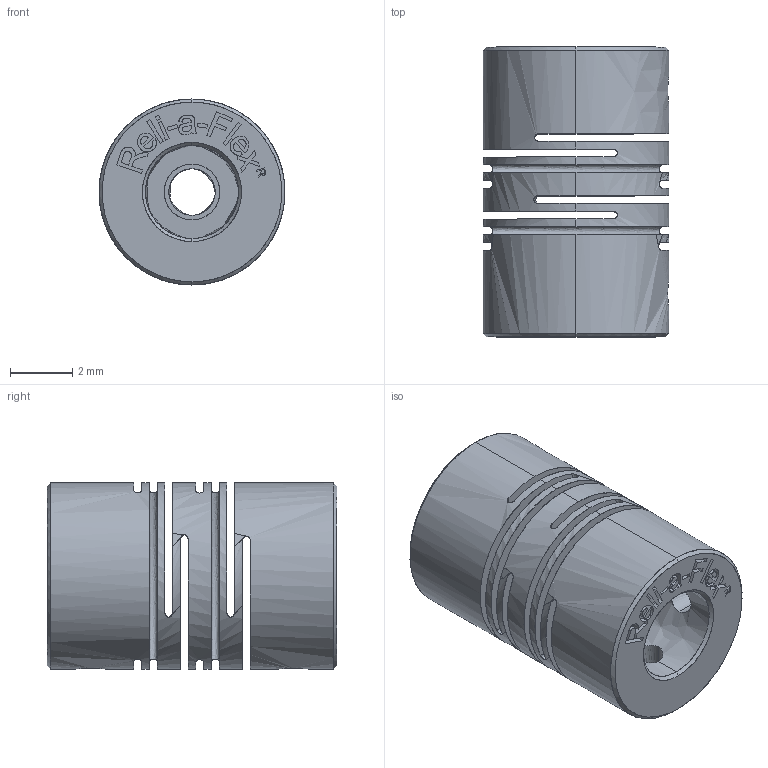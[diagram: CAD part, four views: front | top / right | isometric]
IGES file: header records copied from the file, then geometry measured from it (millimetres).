
Start section: Comment
Global section: file name: RCSA6-3-1.5.igs; native system:  By UGS Corp.; preprocessor: XPlus GENERIC/IGES 3.0; author: Author; organization: Title; date: 20070323.110441; units: inch
Bounding box: 6 x 9.35 x 6 mm (x, y, z)
Surface area: 610.2 mm2 (no closed solid volume)
Topology: 0 solids, 0 shells, 204 faces, 1112 edges, 1112 vertices
Faces by surface type: bspline 204
